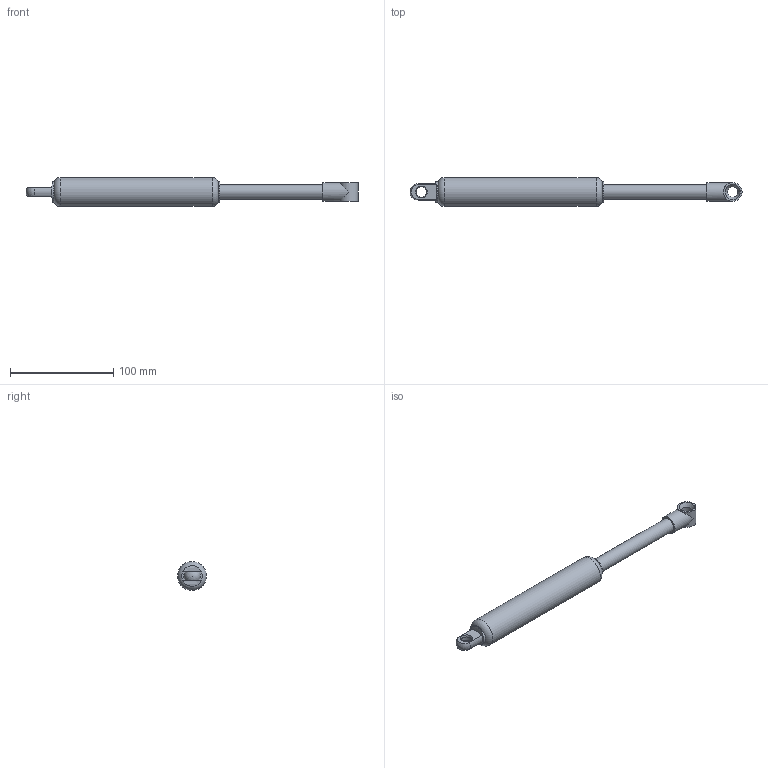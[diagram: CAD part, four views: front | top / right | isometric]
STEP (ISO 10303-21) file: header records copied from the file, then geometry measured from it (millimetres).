
FILE_DESCRIPTION(/* description */ ('STEP AP214'),/* implementation_level */ '2;1');
FILE_NAME(/* name */ 'Bansbach+B2M3-45-100-302--0XX_1300N(02)',/* time_stamp */ '2026-08-26T14:40:50+02:00',/* author */ ('License CC BY-ND 4.0'),/* organization */ ('CADENAS'),/* preprocessor_version */ 'ST-DEVELOPER v20',/* originating_system */ 'PARTsolutions',/* authorisation */ ' ');
FILE_SCHEMA (('AP242_MANAGED_MODEL_BASED_3D_ENGINEERING_MIM_LF { 1 0 10303 442 3 1 4 }','AUTOMOTIVE_DESIGN {1 0 10303 214 3 1 1}'));
Length unit declared in the file: millimetre
Products named in the file (5): Bansbach+B2M3-45-100-302--0XX/1300N(02); -14/28(100132M3); B2-14/28(100132); B214AK; M328AZ
Assembly tree (4 placements, depth 2):
  Bansbach+B2M3-45-100-302--0XX/1300N(02)
    -14/28(100132M3)
    B2-14/28(100132)
    B214AK
    M328AZ
Bounding box: 322.05 x 28 x 28 mm (x, y, z)
Volume: 72503.3 mm3; surface area: 38700 mm2
Topology: 4 solids, 4 shells, 50 faces, 98 edges, 61 vertices
Faces by surface type: cylinder 19, plane 18, cone 10, torus 2, sphere 1
Full cylindrical faces by diameter (mm): 8.376 x1, 10 x1, 10.2 x2, 14 x2, 18 x2, 19.8 x1, 19.9 x1, 23.2 x1, 25.2 x3, 28 x1
Entity records: 1346 total; most frequent: DIRECTION 226, CARTESIAN_POINT 192, ORIENTED_EDGE 132, AXIS2_PLACEMENT_3D 107, FACE_BOUND 87, EDGE_LOOP 86, EDGE_CURVE 66, VERTEX_POINT 57
